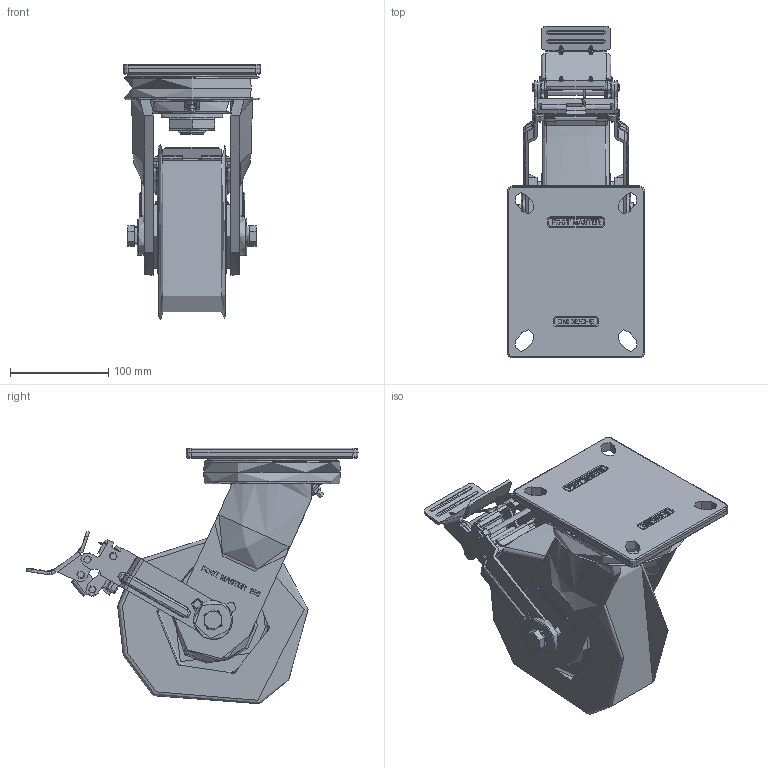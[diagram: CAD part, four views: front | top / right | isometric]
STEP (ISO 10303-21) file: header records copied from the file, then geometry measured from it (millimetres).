
FILE_DESCRIPTION(/* description */ (''),/* implementation_level */ '2;1');
FILE_NAME(/* name */ 'Y:\1.기술연구소\2.연구개발 진행중\133.고하중캐스터 브레이크 타입 변경건_2025.11.03\1.도면\4.홈페이지용 도면\01. 3D\GXT-200 SERIES\GXT-200-STEP\GXT-200-BSF-HUD-TB.stp',/* time_stamp */ '2026-07-21T18:48:06+09:00',/* author */ ('장용하'),/* organization */ (''),/* preprocessor_version */ 'ST-DEVELOPER v18.1',/* originating_system */ 'Autodesk Inventor 2021',/* authorisation */ '');
FILE_SCHEMA (('CONFIG_CONTROL_DESIGN'));
Products named in the file (1): GXT-200-BSF-HUD-TB
Bounding box: 140 x 337.95 x 260.14 mm (x, y, z)
Topology: 1 solids, 5 shells, 1761 faces, 4704 edges, 3042 vertices
Faces by surface type: plane 707, bspline 500, cylinder 433, torus 74, cone 35, sphere 12
Full cylindrical faces by diameter (mm): 2 x7, 4 x6, 6 x2, 6.2 x14, 6.3 x2, 6.5 x2, 6.8 x4, 8 x6, 8.5 x6, 12 x2, 13 x2, 30 x1, 40 x2, 62.5 x1, 65 x2, 131.086 x1
Entity records: 60824 total; most frequent: CARTESIAN_POINT 19051, ORIENTED_EDGE 9412, DIRECTION 7578, EDGE_CURVE 4706, VERTEX_POINT 3042, AXIS2_PLACEMENT_3D 2588, LINE 2402, VECTOR 2402
